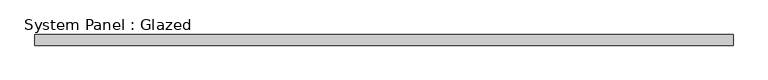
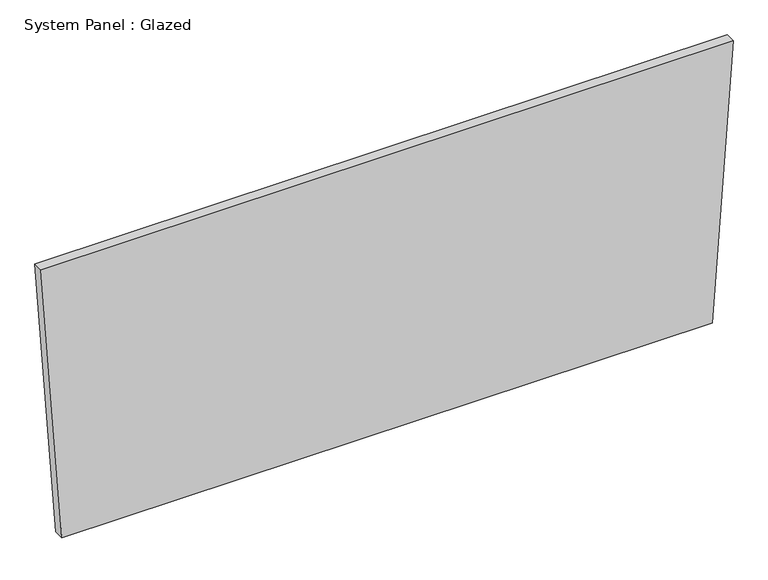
"""IFC4 building model written with IfcOpenShell, lengths in millimetres: plate geometry, System Panel : Glazed."""

from ifc_helpers import new_model, si_unit, frame, origin, place, context, project, spatial, polyline, outline, extrude, source, transform, mapped, element, save


def system_panel_glazed_6ec41bf2(model_context):
    return source(origin(), model_context, "Body", "SweptSolid", [
        extrude(outline(polyline([(0.0, -784.4912814), (0.0003883, 784.4913093), (702.177271, 834.9992312), (702.177271, -834.9992312), (0.0, -784.4912814)])), frame((0.0, 19.05, 0.0), z_axis=(0.0, 1.0, 0.0), x_axis=(0.0, 0.0, 1.0)), (0.0, 0.0, 1.0), 25.4),
    ])


if __name__ == "__main__":
    model = new_model("IFC4")
    model_context = context("Model", 3, world=origin())
    ifc_project = project(units=[si_unit("LENGTHUNIT", "METRE", prefix="MILLI")], contexts=[model_context])
    site = spatial("IfcSite", under=ifc_project)
    building = spatial("IfcBuilding", under=site)
    placement = place(None, origin())
    system_panel_glazed_shape = system_panel_glazed_6ec41bf2(model_context)
    element("IfcPlate", 1, ObjectType="System Panel : Glazed", at=placement, inside=building, context=model_context, shape_type="MappedRepresentation", body=[
        mapped(system_panel_glazed_shape, transform((0.0, 0.0, 0.0), x_axis=(1.0, 0.0, 0.0), y_axis=(0.0, 1.0, 0.0), z_axis=(0.0, 0.0, 1.0))),
    ])
    save(model, "model.ifc")
